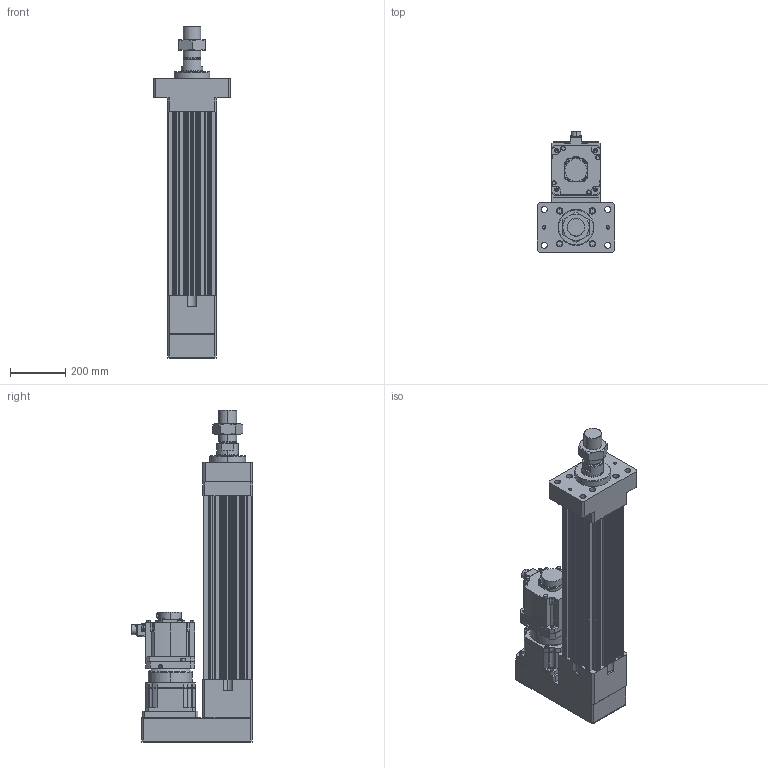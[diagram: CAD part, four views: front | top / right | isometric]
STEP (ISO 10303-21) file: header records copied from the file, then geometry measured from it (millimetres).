
FILE_DESCRIPTION (( 'STEP AP203' ), '1' );
FILE_NAME ('HES180HS-P350-W050G00-M-FMA.STEP', '2023-02-01T08:00:20', ( 'tms' ), ( '' ), 'SwSTEP 2.0', 'SolidWorks 2013', '' );
FILE_SCHEMA (( 'CONFIG_CONTROL_DESIGN' ));
Length unit declared in the file: millimetre
Products named in the file (9): P1301600001; HES180HS-P350-W050G00-M-FMA; P0403600401; AB1801; HES180-P350-G180-FMA; AB180-003[HG-SR702B]; HES180 ROD M ST350; M64X2.0P; HG-SR502
Assembly tree (8 placements, depth 3):
  HES180HS-P350-W050G00-M-FMA
    HES180-P350-G180-FMA
    HES180 ROD M ST350
    M64X2.0P
    AB180-003[HG-SR702B]
      AB1801
      P1301600001
      P0403600401
    HG-SR502
Bounding box: 280 x 438.85 x 1202 mm (x, y, z)
Volume: 28304468.2 mm3; surface area: 2380098.6 mm2
Topology: 4 solids, 19 shells, 1431 faces, 3715 edges, 2410 vertices
Faces by surface type: cylinder 663, plane 555, cone 146, bspline 63, torus 4
Entity records: 52578 total; most frequent: CARTESIAN_POINT 15982, DIRECTION 7693, ORIENTED_EDGE 7330, EDGE_CURVE 3689, AXIS2_PLACEMENT_3D 2901, VERTEX_POINT 2410, VECTOR 1891, LINE 1891
